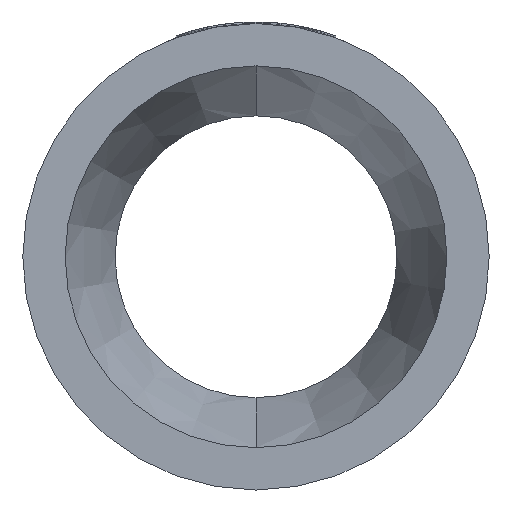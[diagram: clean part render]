
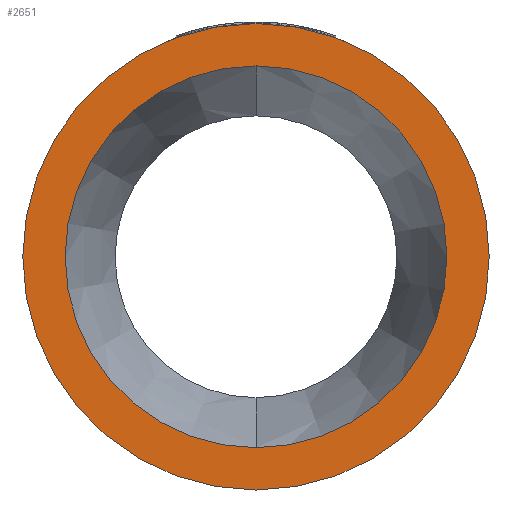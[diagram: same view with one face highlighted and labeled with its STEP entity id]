
A CAD part, left-side view. The second image highlights one B-rep face of the part: STEP entity #2651.
In plain terms, the highlighted planar face has unit normal (-1, 0, 0).
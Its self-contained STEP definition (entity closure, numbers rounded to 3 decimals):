
#31 = EDGE_CURVE ( 'NONE', #890, #2571, #1339, .T. ) ;
#178 = CARTESIAN_POINT ( 'NONE',  ( 0., 0., 57.3 ) ) ;
#559 = FACE_OUTER_BOUND ( 'NONE', #2230, .T. ) ;
#601 = EDGE_CURVE ( 'NONE', #3440, #1476, #1456, .T. ) ;
#744 = CARTESIAN_POINT ( 'NONE',  ( 0., 0., -57.3 ) ) ;
#810 = ORIENTED_EDGE ( 'NONE', *, *, #601, .T. ) ;
#890 = VERTEX_POINT ( 'NONE', #744 ) ;
#989 = FACE_BOUND ( 'NONE', #2785, .T. ) ;
#1084 = CIRCLE ( 'NONE', #1340, 70. ) ;
#1215 = CARTESIAN_POINT ( 'NONE',  ( 0., 57.3, 0. ) ) ;
#1339 = CIRCLE ( 'NONE', #2102, 57.3 ) ;
#1340 = AXIS2_PLACEMENT_3D ( 'NONE', #1513, #1494, #1460 ) ;
#1380 = AXIS2_PLACEMENT_3D ( 'NONE', #1621, #1599, #1581 ) ;
#1456 = CIRCLE ( 'NONE', #1974, 70. ) ;
#1460 = DIRECTION ( 'NONE',  ( 0., 0., 1. ) ) ;
#1476 = VERTEX_POINT ( 'NONE', #2207 ) ;
#1485 = DIRECTION ( 'NONE',  ( 0., 0., 1. ) ) ;
#1494 = DIRECTION ( 'NONE',  ( -1., 0., 0. ) ) ;
#1504 = DIRECTION ( 'NONE',  ( -1., 0., 0. ) ) ;
#1513 = CARTESIAN_POINT ( 'NONE',  ( 0., 0., 0. ) ) ;
#1529 = CARTESIAN_POINT ( 'NONE',  ( 0., 0., 0. ) ) ;
#1568 = EDGE_CURVE ( 'NONE', #2571, #890, #1814, .T. ) ;
#1581 = DIRECTION ( 'NONE',  ( 0., 0., 1. ) ) ;
#1586 = EDGE_CURVE ( 'NONE', #1476, #3440, #1084, .T. ) ;
#1599 = DIRECTION ( 'NONE',  ( -1., 0., 0. ) ) ;
#1621 = CARTESIAN_POINT ( 'NONE',  ( 0., 0., 0. ) ) ;
#1814 = CIRCLE ( 'NONE', #1380, 57.3 ) ;
#1974 = AXIS2_PLACEMENT_3D ( 'NONE', #1529, #1504, #1485 ) ;
#2084 = DIRECTION ( 'NONE',  ( 0., 0., 1. ) ) ;
#2102 = AXIS2_PLACEMENT_3D ( 'NONE', #2290, #3082, #2084 ) ;
#2132 = CARTESIAN_POINT ( 'NONE',  ( 0., 0., 70. ) ) ;
#2207 = CARTESIAN_POINT ( 'NONE',  ( 0., 0., -70. ) ) ;
#2230 = EDGE_LOOP ( 'NONE', ( #810, #2291 ) ) ;
#2290 = CARTESIAN_POINT ( 'NONE',  ( 0., 0., 0. ) ) ;
#2291 = ORIENTED_EDGE ( 'NONE', *, *, #1586, .T. ) ;
#2571 = VERTEX_POINT ( 'NONE', #178 ) ;
#2651 = ADVANCED_FACE ( 'NONE', ( #989, #559 ), #3117, .F. ) ;
#2785 = EDGE_LOOP ( 'NONE', ( #3110, #3147 ) ) ;
#2966 = AXIS2_PLACEMENT_3D ( 'NONE', #1215, #3051, #3046 ) ;
#3046 = DIRECTION ( 'NONE',  ( 0., 0., -1. ) ) ;
#3051 = DIRECTION ( 'NONE',  ( 1., 0., 0. ) ) ;
#3082 = DIRECTION ( 'NONE',  ( -1., 0., 0. ) ) ;
#3110 = ORIENTED_EDGE ( 'NONE', *, *, #1568, .F. ) ;
#3117 = PLANE ( 'NONE',  #2966 ) ;
#3147 = ORIENTED_EDGE ( 'NONE', *, *, #31, .F. ) ;
#3440 = VERTEX_POINT ( 'NONE', #2132 ) ;
